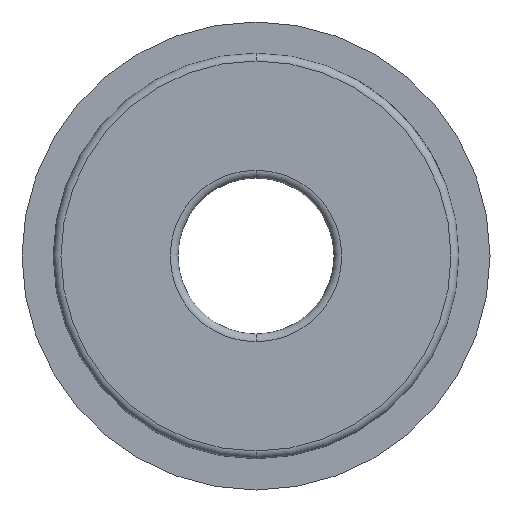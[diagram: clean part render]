
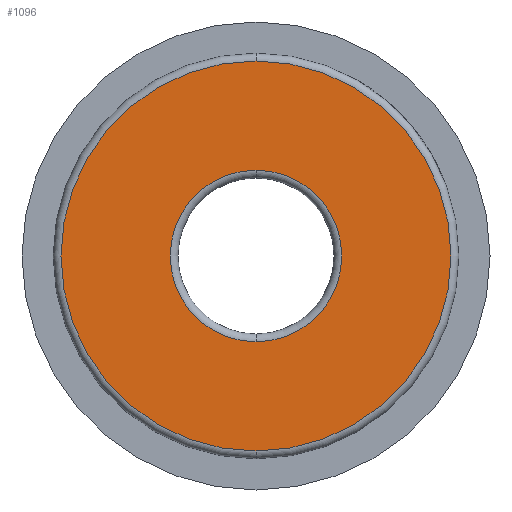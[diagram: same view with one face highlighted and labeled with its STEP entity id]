
A CAD part, front view. The second image highlights one B-rep face of the part: STEP entity #1096.
In plain terms, the highlighted planar face has unit normal (0, -1, 0).
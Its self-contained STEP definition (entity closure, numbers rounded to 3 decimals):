
#374 = ORIENTED_EDGE ( 'NONE', *, *, #3177, .T. ) ;
#421 = CARTESIAN_POINT ( 'NONE',  ( 0., 0., 0. ) ) ;
#541 = DIRECTION ( 'NONE',  ( 0., 1., 0. ) ) ;
#855 = DIRECTION ( 'NONE',  ( 0., 1., 0. ) ) ;
#939 = CARTESIAN_POINT ( 'NONE',  ( 0., 0., -5.5 ) ) ;
#957 = DIRECTION ( 'NONE',  ( 0., 0., 1. ) ) ;
#1096 = ADVANCED_FACE ( 'NONE', ( #5589, #1628 ), #4835, .F. ) ;
#1380 = ORIENTED_EDGE ( 'NONE', *, *, #3186, .T. ) ;
#1628 = FACE_BOUND ( 'NONE', #3036, .T. ) ;
#1949 = CIRCLE ( 'NONE', #5435, 5.5 ) ;
#2135 = VERTEX_POINT ( 'NONE', #4131 ) ;
#2138 = VERTEX_POINT ( 'NONE', #939 ) ;
#2631 = EDGE_CURVE ( 'NONE', #4424, #2138, #5654, .T. ) ;
#3036 = EDGE_LOOP ( 'NONE', ( #3913, #1380 ) ) ;
#3054 = DIRECTION ( 'NONE',  ( 0., -1., 0. ) ) ;
#3124 = CARTESIAN_POINT ( 'NONE',  ( 0., 0., 0. ) ) ;
#3177 = EDGE_CURVE ( 'NONE', #3385, #2135, #4433, .T. ) ;
#3186 = EDGE_CURVE ( 'NONE', #2138, #4424, #1949, .T. ) ;
#3288 = ORIENTED_EDGE ( 'NONE', *, *, #3436, .T. ) ;
#3385 = VERTEX_POINT ( 'NONE', #5134 ) ;
#3436 = EDGE_CURVE ( 'NONE', #2135, #3385, #5567, .T. ) ;
#3628 = DIRECTION ( 'NONE',  ( 0., 0., 1. ) ) ;
#3913 = ORIENTED_EDGE ( 'NONE', *, *, #2631, .T. ) ;
#4046 = CARTESIAN_POINT ( 'NONE',  ( 0., 0., 0. ) ) ;
#4131 = CARTESIAN_POINT ( 'NONE',  ( 0., 0., -12.5 ) ) ;
#4149 = DIRECTION ( 'NONE',  ( 0., -1., 0. ) ) ;
#4216 = AXIS2_PLACEMENT_3D ( 'NONE', #3124, #6614, #3628 ) ;
#4245 = EDGE_LOOP ( 'NONE', ( #374, #3288 ) ) ;
#4269 = DIRECTION ( 'NONE',  ( 0., 0., 1. ) ) ;
#4424 = VERTEX_POINT ( 'NONE', #4760 ) ;
#4433 = CIRCLE ( 'NONE', #5092, 12.5 ) ;
#4565 = DIRECTION ( 'NONE',  ( 0., 0., 1. ) ) ;
#4760 = CARTESIAN_POINT ( 'NONE',  ( 0., 0., 5.5 ) ) ;
#4835 = PLANE ( 'NONE',  #5522 ) ;
#5092 = AXIS2_PLACEMENT_3D ( 'NONE', #6042, #3054, #6541 ) ;
#5134 = CARTESIAN_POINT ( 'NONE',  ( 0., 0., 12.5 ) ) ;
#5435 = AXIS2_PLACEMENT_3D ( 'NONE', #4046, #855, #4565 ) ;
#5522 = AXIS2_PLACEMENT_3D ( 'NONE', #6251, #541, #4269 ) ;
#5567 = CIRCLE ( 'NONE', #6085, 12.5 ) ;
#5589 = FACE_OUTER_BOUND ( 'NONE', #4245, .T. ) ;
#5654 = CIRCLE ( 'NONE', #4216, 5.5 ) ;
#6042 = CARTESIAN_POINT ( 'NONE',  ( 0., 0., 0. ) ) ;
#6085 = AXIS2_PLACEMENT_3D ( 'NONE', #421, #4149, #957 ) ;
#6251 = CARTESIAN_POINT ( 'NONE',  ( 0., 0., 0. ) ) ;
#6541 = DIRECTION ( 'NONE',  ( 0., 0., 1. ) ) ;
#6614 = DIRECTION ( 'NONE',  ( 0., 1., 0. ) ) ;
